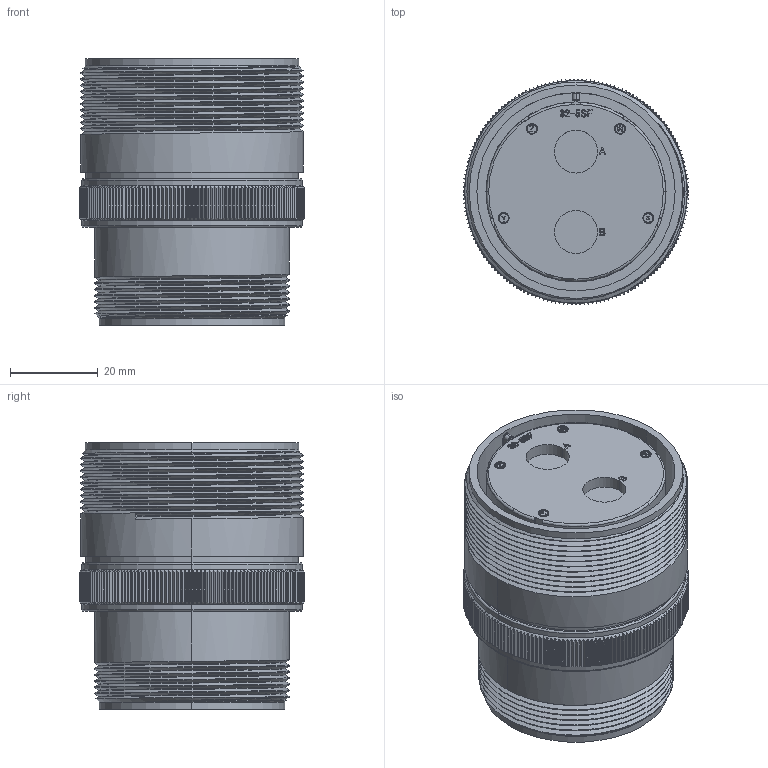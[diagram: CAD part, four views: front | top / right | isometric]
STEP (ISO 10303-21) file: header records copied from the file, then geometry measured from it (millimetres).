
FILE_DESCRIPTION (( 'STEP AP203' ), '1' );
FILE_NAME ('DMS3101A32-5S.STEP', '2018-08-07T01:31:53', ( '' ), ( '' ), 'SwSTEP 2.0', 'SolidWorks 2018', '' );
FILE_SCHEMA (( 'CONFIG_CONTROL_DESIGN' ));
Length unit declared in the file: millimetre
Products named in the file (1): DMS3101A32-5S
Bounding box: 51.4 x 51.4 x 60.56 mm (x, y, z)
Volume: 67927.1 mm3; surface area: 30414.5 mm2
Topology: 1 solids, 1 shells, 1715 faces, 4960 edges, 3295 vertices
Faces by surface type: cylinder 914, plane 595, bspline 184, cone 15, torus 7
Entity records: 72129 total; most frequent: CARTESIAN_POINT 31840, ORIENTED_EDGE 9920, DIRECTION 6164, EDGE_CURVE 4960, VERTEX_POINT 3295, B_SPLINE_CURVE_WITH_KNOTS 2258, AXIS2_PLACEMENT_3D 2072, VECTOR 2020
